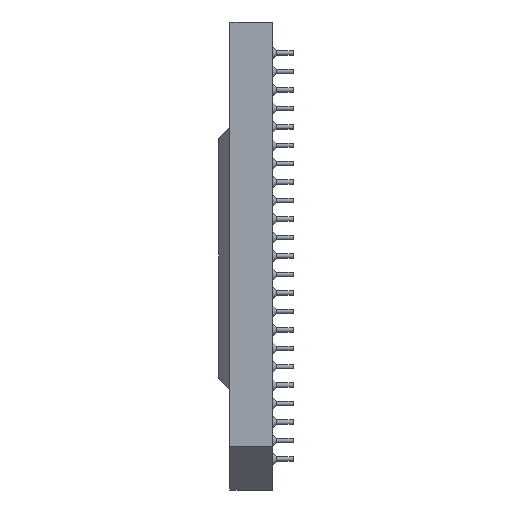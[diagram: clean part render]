
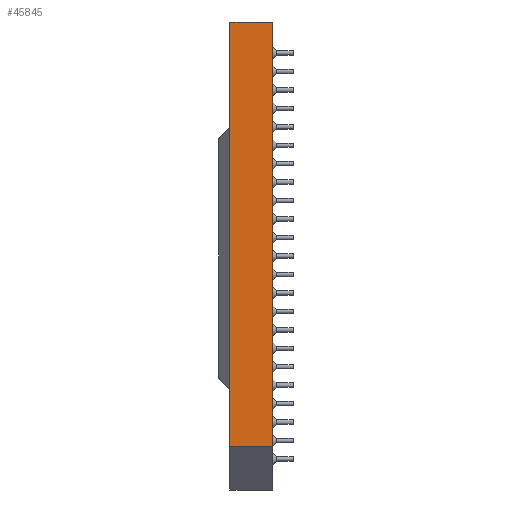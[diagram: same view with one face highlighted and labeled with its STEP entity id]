
A CAD part, left-side view. The second image highlights one B-rep face of the part: STEP entity #45845.
In plain terms, the highlighted planar face has unit normal (-1, 0, 0).
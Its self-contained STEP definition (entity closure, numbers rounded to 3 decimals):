
#1576 = VERTEX_POINT ( 'NONE', #52172 ) ;
#2140 = EDGE_CURVE ( 'NONE', #47874, #1576, #38154, .T. ) ;
#3566 = DIRECTION ( 'NONE',  ( 0., -1., 0. ) ) ;
#3581 = DIRECTION ( 'NONE',  ( 0., -1., 0. ) ) ;
#8611 = ORIENTED_EDGE ( 'NONE', *, *, #19584, .T. ) ;
#13586 = CARTESIAN_POINT ( 'NONE',  ( -17.5, 2.95, 16.1 ) ) ;
#15050 = VECTOR ( 'NONE', #57889, 1000. ) ;
#15097 = LINE ( 'NONE', #37754, #28530 ) ;
#16338 = LINE ( 'NONE', #43732, #46663 ) ;
#19584 = EDGE_CURVE ( 'NONE', #47874, #55152, #16338, .T. ) ;
#19787 = ORIENTED_EDGE ( 'NONE', *, *, #2140, .F. ) ;
#22288 = FACE_OUTER_BOUND ( 'NONE', #60528, .T. ) ;
#23086 = CARTESIAN_POINT ( 'NONE',  ( -17.5, 2.95, -13.1 ) ) ;
#23554 = CARTESIAN_POINT ( 'NONE',  ( -17.5, 0., -13.1 ) ) ;
#28530 = VECTOR ( 'NONE', #3566, 1000. ) ;
#30261 = LINE ( 'NONE', #40601, #15050 ) ;
#31077 = DIRECTION ( 'NONE',  ( 0., 0., -1. ) ) ;
#33541 = EDGE_CURVE ( 'NONE', #1576, #39032, #15097, .T. ) ;
#37754 = CARTESIAN_POINT ( 'NONE',  ( -17.5, 2.95, 16.1 ) ) ;
#38154 = LINE ( 'NONE', #63033, #51540 ) ;
#39032 = VERTEX_POINT ( 'NONE', #46602 ) ;
#40601 = CARTESIAN_POINT ( 'NONE',  ( -17.5, 0., 16.1 ) ) ;
#42541 = DIRECTION ( 'NONE',  ( 0., 0., 1. ) ) ;
#43732 = CARTESIAN_POINT ( 'NONE',  ( -17.5, 2.95, -13.1 ) ) ;
#45845 = ADVANCED_FACE ( 'NONE', ( #22288 ), #59570, .F. ) ;
#46216 = AXIS2_PLACEMENT_3D ( 'NONE', #13586, #65315, #31077 ) ;
#46602 = CARTESIAN_POINT ( 'NONE',  ( -17.5, 0., 16.1 ) ) ;
#46663 = VECTOR ( 'NONE', #3581, 1000. ) ;
#47874 = VERTEX_POINT ( 'NONE', #23086 ) ;
#51540 = VECTOR ( 'NONE', #42541, 1000. ) ;
#52172 = CARTESIAN_POINT ( 'NONE',  ( -17.5, 2.95, 16.1 ) ) ;
#52341 = EDGE_CURVE ( 'NONE', #55152, #39032, #30261, .T. ) ;
#55152 = VERTEX_POINT ( 'NONE', #23554 ) ;
#56725 = ORIENTED_EDGE ( 'NONE', *, *, #52341, .T. ) ;
#57889 = DIRECTION ( 'NONE',  ( 0., 0., 1. ) ) ;
#59570 = PLANE ( 'NONE',  #46216 ) ;
#60165 = ORIENTED_EDGE ( 'NONE', *, *, #33541, .F. ) ;
#60528 = EDGE_LOOP ( 'NONE', ( #19787, #8611, #56725, #60165 ) ) ;
#63033 = CARTESIAN_POINT ( 'NONE',  ( -17.5, 2.95, 16.1 ) ) ;
#65315 = DIRECTION ( 'NONE',  ( 1., 0., 0. ) ) ;
